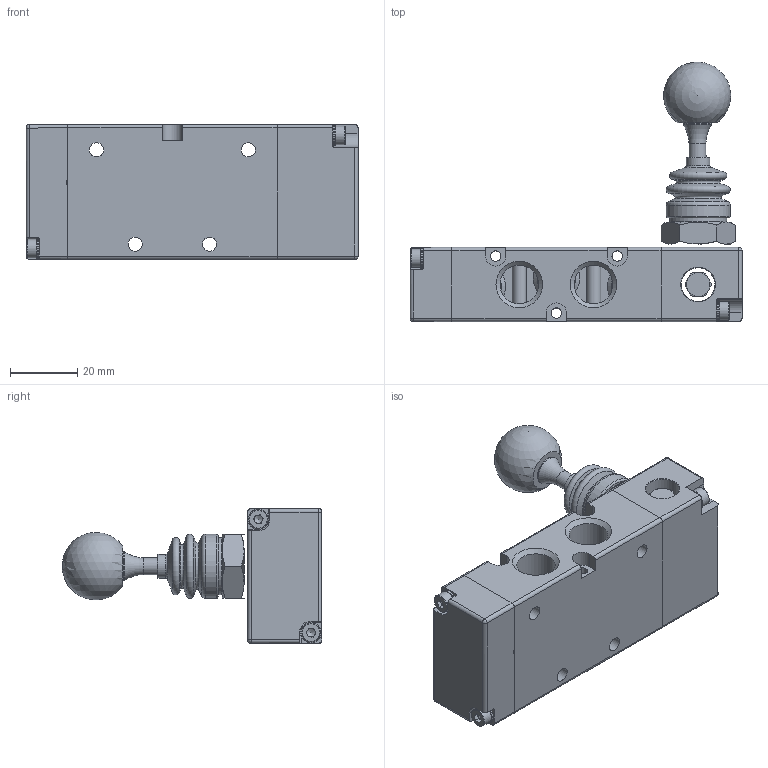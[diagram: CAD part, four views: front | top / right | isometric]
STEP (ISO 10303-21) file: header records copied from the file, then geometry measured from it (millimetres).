
FILE_DESCRIPTION (( 'STEP AP214' ), '1' );
FILE_NAME ('282418.STEP', '2014-04-16T16:13:08', ( 'ST01' ), ( '' ), 'SwSTEP 2.0', 'SolidWorks 2013', '' );
FILE_SCHEMA (( 'AUTOMOTIVE_DESIGN' ));
Length unit declared in the file: millimetre
Products named in the file (1): 282418
Bounding box: 98.4 x 76.93 x 40 mm (x, y, z)
Surface area: 22200.5 mm2 (no closed solid volume)
Topology: 0 solids, 17 shells, 221 faces, 654 edges, 425 vertices
Faces by surface type: plane 95, cylinder 67, cone 32, torus 22, sphere 5
Full cylindrical faces by diameter (mm): 3 x1, 3.1 x3, 4.2 x4, 5 x1, 5.5 x4, 7 x1, 8.5 x1, 10 x2, 11.445 x5, 16.9 x1, 19 x1
Entity records: 9935 total; most frequent: CARTESIAN_POINT 1976, DIRECTION 1167, ORIENTED_EDGE 962, EDGE_CURVE 585, AXIS2_PLACEMENT_3D 440, VERTEX_POINT 414, EDGE_LOOP 311, LINE 287
